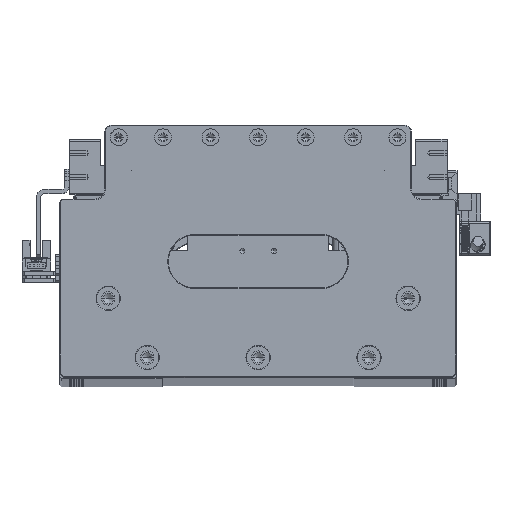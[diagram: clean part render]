
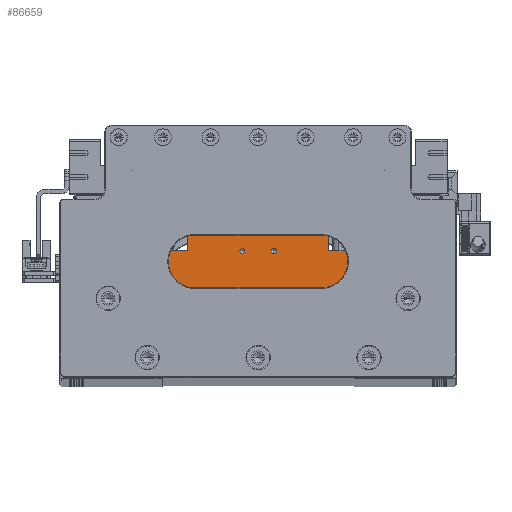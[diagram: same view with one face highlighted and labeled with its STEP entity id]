
A CAD part, top view. The second image highlights one B-rep face of the part: STEP entity #86659.
In plain terms, the highlighted planar face has unit normal (0, 0, 1).
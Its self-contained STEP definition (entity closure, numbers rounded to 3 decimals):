
#3172 = CARTESIAN_POINT ( 'NONE',  ( 33.5, 0., 125. ) ) ;
#6212 = VERTEX_POINT ( 'NONE', #92315 ) ;
#6750 = ORIENTED_EDGE ( 'NONE', *, *, #37626, .T. ) ;
#7188 = DIRECTION ( 'NONE',  ( 1., 0., 0. ) ) ;
#7606 = CARTESIAN_POINT ( 'NONE',  ( 0., -8., 125. ) ) ;
#9221 = ORIENTED_EDGE ( 'NONE', *, *, #102082, .T. ) ;
#9935 = VERTEX_POINT ( 'NONE', #70397 ) ;
#10590 = CARTESIAN_POINT ( 'NONE',  ( -8.75, -8., 125. ) ) ;
#11527 = CARTESIAN_POINT ( 'NONE',  ( 0., 0., 125. ) ) ;
#11822 = VECTOR ( 'NONE', #58564, 1000. ) ;
#12039 = CARTESIAN_POINT ( 'NONE',  ( 0., 0., 125. ) ) ;
#12234 = LINE ( 'NONE', #63246, #33716 ) ;
#12396 = DIRECTION ( 'NONE',  ( 0., 1., 0. ) ) ;
#13641 = DIRECTION ( 'NONE',  ( 0., 0., -1. ) ) ;
#13646 = VERTEX_POINT ( 'NONE', #85594 ) ;
#13711 = DIRECTION ( 'NONE',  ( 0., 1., 0. ) ) ;
#14187 = LINE ( 'NONE', #11527, #108715 ) ;
#14436 = CARTESIAN_POINT ( 'NONE',  ( 8.75, -8., 125. ) ) ;
#14686 = LINE ( 'NONE', #96988, #11822 ) ;
#14767 = DIRECTION ( 'NONE',  ( 0., 0., -1. ) ) ;
#14861 = VECTOR ( 'NONE', #13711, 1000. ) ;
#15530 = LINE ( 'NONE', #7606, #107186 ) ;
#16692 = DIRECTION ( 'NONE',  ( 0., -1., 0. ) ) ;
#16804 = DIRECTION ( 'NONE',  ( -1., 0., 0. ) ) ;
#17632 = EDGE_CURVE ( 'NONE', #115378, #75056, #97388, .T. ) ;
#20669 = ORIENTED_EDGE ( 'NONE', *, *, #108660, .T. ) ;
#20876 = EDGE_CURVE ( 'NONE', #91290, #6212, #73906, .T. ) ;
#21116 = ORIENTED_EDGE ( 'NONE', *, *, #99366, .T. ) ;
#21461 = ORIENTED_EDGE ( 'NONE', *, *, #67045, .T. ) ;
#21658 = CARTESIAN_POINT ( 'NONE',  ( -45., -40.2, 125. ) ) ;
#22529 = CIRCLE ( 'NONE', #83604, 1.25 ) ;
#23033 = VERTEX_POINT ( 'NONE', #100191 ) ;
#24906 = AXIS2_PLACEMENT_3D ( 'NONE', #12039, #103680, #48816 ) ;
#27016 = CARTESIAN_POINT ( 'NONE',  ( 33.5, 0., 125. ) ) ;
#30007 = VERTEX_POINT ( 'NONE', #31758 ) ;
#31758 = CARTESIAN_POINT ( 'NONE',  ( 45., -40.2, 125. ) ) ;
#31922 = AXIS2_PLACEMENT_3D ( 'NONE', #116928, #62020, #7188 ) ;
#33149 = DIRECTION ( 'NONE',  ( 0., -1., 0. ) ) ;
#33716 = VECTOR ( 'NONE', #81293, 1000. ) ;
#36221 = LINE ( 'NONE', #3172, #51904 ) ;
#37412 = VERTEX_POINT ( 'NONE', #10590 ) ;
#37626 = EDGE_CURVE ( 'NONE', #113993, #30007, #14686, .T. ) ;
#45822 = FACE_BOUND ( 'NONE', #114820, .T. ) ;
#46302 = VECTOR ( 'NONE', #16692, 1000. ) ;
#47527 = AXIS2_PLACEMENT_3D ( 'NONE', #103740, #48885, #112977 ) ;
#48816 = DIRECTION ( 'NONE',  ( 1., 0., 0. ) ) ;
#48885 = DIRECTION ( 'NONE',  ( 0., 0., -1. ) ) ;
#49518 = VECTOR ( 'NONE', #33149, 1000. ) ;
#51904 = VECTOR ( 'NONE', #12396, 1000. ) ;
#57851 = CARTESIAN_POINT ( 'NONE',  ( 6.25, -8., 125. ) ) ;
#58564 = DIRECTION ( 'NONE',  ( 1., 0., 0. ) ) ;
#59625 = ORIENTED_EDGE ( 'NONE', *, *, #17632, .T. ) ;
#61775 = CARTESIAN_POINT ( 'NONE',  ( -45., -8., 125. ) ) ;
#62020 = DIRECTION ( 'NONE',  ( 0., 0., -1. ) ) ;
#62218 = CARTESIAN_POINT ( 'NONE',  ( -33.5, 0., 125. ) ) ;
#63246 = CARTESIAN_POINT ( 'NONE',  ( 0., -8., 125. ) ) ;
#64465 = EDGE_LOOP ( 'NONE', ( #21116, #59625 ) ) ;
#64735 = EDGE_LOOP ( 'NONE', ( #84062, #21461, #6750, #9221, #20669, #79895, #118317, #86948 ) ) ;
#67045 = EDGE_CURVE ( 'NONE', #67714, #113993, #92140, .T. ) ;
#67714 = VERTEX_POINT ( 'NONE', #61775 ) ;
#68461 = CARTESIAN_POINT ( 'NONE',  ( -7.5, -8., 125. ) ) ;
#69607 = CARTESIAN_POINT ( 'NONE',  ( 7.5, -8., 125. ) ) ;
#70186 = FACE_OUTER_BOUND ( 'NONE', #64735, .T. ) ;
#70397 = CARTESIAN_POINT ( 'NONE',  ( 45., -8., 125. ) ) ;
#71174 = CARTESIAN_POINT ( 'NONE',  ( -45., 0., 125. ) ) ;
#71398 = EDGE_CURVE ( 'NONE', #37412, #23033, #22529, .T. ) ;
#73906 = LINE ( 'NONE', #97179, #49518 ) ;
#75056 = VERTEX_POINT ( 'NONE', #14436 ) ;
#75590 = DIRECTION ( 'NONE',  ( -1., 0., 0. ) ) ;
#76078 = PLANE ( 'NONE',  #24906 ) ;
#76253 = ORIENTED_EDGE ( 'NONE', *, *, #71398, .T. ) ;
#77696 = DIRECTION ( 'NONE',  ( 1., 0., 0. ) ) ;
#77778 = CARTESIAN_POINT ( 'NONE',  ( 45., 0., 125. ) ) ;
#78331 = EDGE_CURVE ( 'NONE', #97877, #91290, #14187, .T. ) ;
#78801 = DIRECTION ( 'NONE',  ( 1., 0., 0. ) ) ;
#79895 = ORIENTED_EDGE ( 'NONE', *, *, #102674, .T. ) ;
#81293 = DIRECTION ( 'NONE',  ( -1., 0., 0. ) ) ;
#83604 = AXIS2_PLACEMENT_3D ( 'NONE', #68461, #13641, #77696 ) ;
#84062 = ORIENTED_EDGE ( 'NONE', *, *, #116487, .T. ) ;
#85594 = CARTESIAN_POINT ( 'NONE',  ( 33.5, -8., 125. ) ) ;
#86659 = ADVANCED_FACE ( 'NONE', ( #70186, #94517, #45822 ), #76078, .T. ) ;
#86948 = ORIENTED_EDGE ( 'NONE', *, *, #20876, .T. ) ;
#91290 = VERTEX_POINT ( 'NONE', #62218 ) ;
#92140 = LINE ( 'NONE', #71174, #46302 ) ;
#92315 = CARTESIAN_POINT ( 'NONE',  ( -33.5, -8., 125. ) ) ;
#92468 = EDGE_CURVE ( 'NONE', #23033, #37412, #115962, .T. ) ;
#93765 = ORIENTED_EDGE ( 'NONE', *, *, #92468, .T. ) ;
#94517 = FACE_BOUND ( 'NONE', #64465, .T. ) ;
#96988 = CARTESIAN_POINT ( 'NONE',  ( -45., -40.2, 125. ) ) ;
#97179 = CARTESIAN_POINT ( 'NONE',  ( -33.5, 0., 125. ) ) ;
#97388 = CIRCLE ( 'NONE', #31922, 1.25 ) ;
#97877 = VERTEX_POINT ( 'NONE', #27016 ) ;
#99366 = EDGE_CURVE ( 'NONE', #75056, #115378, #107175, .T. ) ;
#100191 = CARTESIAN_POINT ( 'NONE',  ( -6.25, -8., 125. ) ) ;
#101748 = AXIS2_PLACEMENT_3D ( 'NONE', #69607, #14767, #78801 ) ;
#102082 = EDGE_CURVE ( 'NONE', #30007, #9935, #109389, .T. ) ;
#102674 = EDGE_CURVE ( 'NONE', #13646, #97877, #36221, .T. ) ;
#103680 = DIRECTION ( 'NONE',  ( 0., 0., 1. ) ) ;
#103740 = CARTESIAN_POINT ( 'NONE',  ( -7.5, -8., 125. ) ) ;
#107175 = CIRCLE ( 'NONE', #101748, 1.25 ) ;
#107186 = VECTOR ( 'NONE', #16804, 1000. ) ;
#108660 = EDGE_CURVE ( 'NONE', #9935, #13646, #12234, .T. ) ;
#108715 = VECTOR ( 'NONE', #75590, 1000. ) ;
#109389 = LINE ( 'NONE', #77778, #14861 ) ;
#112977 = DIRECTION ( 'NONE',  ( 1., 0., 0. ) ) ;
#113993 = VERTEX_POINT ( 'NONE', #21658 ) ;
#114820 = EDGE_LOOP ( 'NONE', ( #93765, #76253 ) ) ;
#115378 = VERTEX_POINT ( 'NONE', #57851 ) ;
#115962 = CIRCLE ( 'NONE', #47527, 1.25 ) ;
#116487 = EDGE_CURVE ( 'NONE', #6212, #67714, #15530, .T. ) ;
#116928 = CARTESIAN_POINT ( 'NONE',  ( 7.5, -8., 125. ) ) ;
#118317 = ORIENTED_EDGE ( 'NONE', *, *, #78331, .T. ) ;
